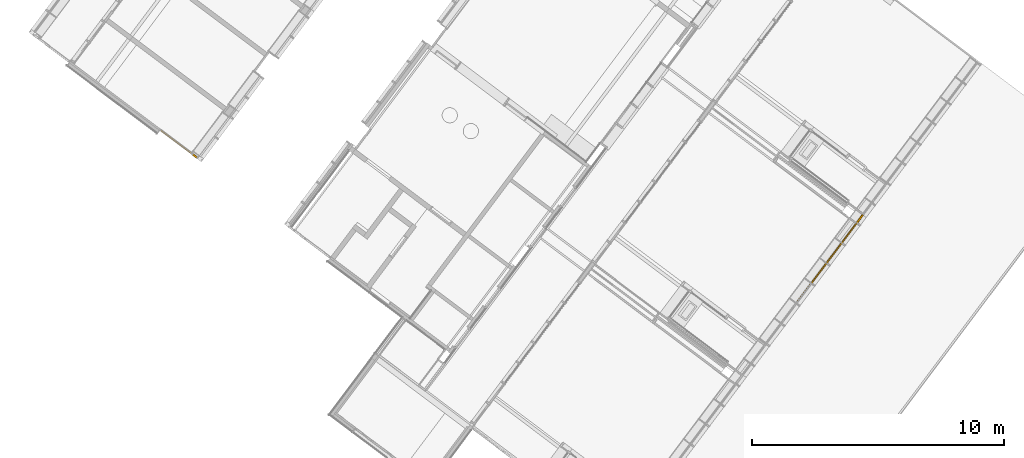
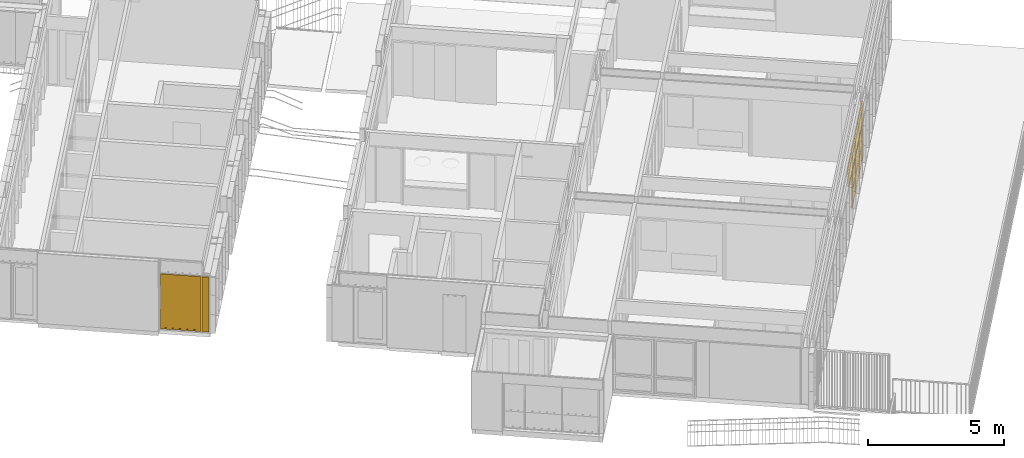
# One storey, part 155 of 243: 11 windows, 2 doors, 2 elements without a shape of their own.
"""IFC2X3 building model written with IfcOpenShell, lengths in metres."""

from ifc_helpers import new_model, entity, si_unit, converted_unit, derived_unit, direction, frame, origin, origin_2d_with_axis, place, context, subcontext, project, spatial, rectangle, extrude, faceted_brep, source, transform, mapped, material, material_list, type_object, type_shapes, element, aggregate, save


model = new_model("IFC2X3")

# Units and contexts
model_context = context("Model", 3, precision=1e-05, world=origin(), true_north=direction((6.123031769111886e-17, 1.0)))
body_context = subcontext(model_context, "Body", "Model", "MODEL_VIEW")
ifc_project = project(units=[si_unit("LENGTHUNIT", "METRE"), si_unit("AREAUNIT", "SQUARE_METRE"), si_unit("VOLUMEUNIT", "CUBIC_METRE"), converted_unit("PLANEANGLEUNIT", "DEGREE", entity("IfcRatioMeasure", 0.017453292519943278), si_unit("PLANEANGLEUNIT", "RADIAN"), dimensions=[0, 0, 0, 0, 0, 0, 0]), si_unit("MASSUNIT", "GRAM", prefix="KILO"), derived_unit("MASSDENSITYUNIT", [(si_unit("MASSUNIT", "GRAM", prefix="KILO"), 1), (si_unit("LENGTHUNIT", "METRE"), -3)]), derived_unit("IONCONCENTRATIONUNIT", [(si_unit("MASSUNIT", "GRAM", prefix="KILO"), 1), (si_unit("LENGTHUNIT", "METRE"), -3)]), derived_unit("MOMENTOFINERTIAUNIT", [(si_unit("LENGTHUNIT", "METRE"), 4)]), si_unit("TIMEUNIT", "SECOND"), si_unit("FREQUENCYUNIT", "HERTZ"), si_unit("THERMODYNAMICTEMPERATUREUNIT", "DEGREE_CELSIUS"), derived_unit("THERMALTRANSMITTANCEUNIT", [(si_unit("MASSUNIT", "GRAM", prefix="KILO"), 1), (si_unit("THERMODYNAMICTEMPERATUREUNIT", "KELVIN"), -1), (si_unit("TIMEUNIT", "SECOND"), -3)]), derived_unit("THERMALCONDUCTANCEUNIT", [(si_unit("MASSUNIT", "GRAM", prefix="KILO"), 1), (si_unit("THERMODYNAMICTEMPERATUREUNIT", "KELVIN"), -1), (si_unit("TIMEUNIT", "SECOND"), -3), (si_unit("LENGTHUNIT", "METRE"), 1)]), derived_unit("VOLUMETRICFLOWRATEUNIT", [(si_unit("LENGTHUNIT", "METRE"), 3), (si_unit("TIMEUNIT", "SECOND"), -1)]), derived_unit("MASSFLOWRATEUNIT", [(si_unit("MASSUNIT", "GRAM", prefix="KILO"), 1), (si_unit("TIMEUNIT", "SECOND"), -1)]), derived_unit("ROTATIONALFREQUENCYUNIT", [(si_unit("TIMEUNIT", "SECOND"), -1)]), si_unit("ELECTRICCURRENTUNIT", "AMPERE"), si_unit("ELECTRICVOLTAGEUNIT", "VOLT"), si_unit("POWERUNIT", "WATT"), si_unit("FORCEUNIT", "NEWTON", prefix="KILO"), si_unit("ILLUMINANCEUNIT", "LUX"), si_unit("LUMINOUSFLUXUNIT", "LUMEN"), si_unit("LUMINOUSINTENSITYUNIT", "CANDELA"), derived_unit("USERDEFINED", [(si_unit("MASSUNIT", "GRAM", prefix="KILO"), -1), (si_unit("LENGTHUNIT", "METRE"), -2), (si_unit("TIMEUNIT", "SECOND"), 3), (si_unit("LUMINOUSFLUXUNIT", "LUMEN"), 1)]), derived_unit("USERDEFINED", [(si_unit("MASSUNIT", "GRAM", prefix="KILO"), 1), (si_unit("TIMEUNIT", "SECOND"), -3), (si_unit("LENGTHUNIT", "METRE"), 3), (si_unit("ELECTRICCURRENTUNIT", "AMPERE"), -2)]), derived_unit("SOUNDPOWERUNIT", [(si_unit("MASSUNIT", "GRAM", prefix="KILO"), 1), (si_unit("TIMEUNIT", "SECOND"), -3), (si_unit("LENGTHUNIT", "METRE"), 2)]), derived_unit("SOUNDPRESSUREUNIT", [(si_unit("MASSUNIT", "GRAM", prefix="KILO"), 1), (si_unit("LENGTHUNIT", "METRE"), -1), (si_unit("TIMEUNIT", "SECOND"), -2)]), derived_unit("LINEARVELOCITYUNIT", [(si_unit("LENGTHUNIT", "METRE"), 1), (si_unit("TIMEUNIT", "SECOND"), -1)]), si_unit("PRESSUREUNIT", "PASCAL"), derived_unit("USERDEFINED", [(si_unit("MASSUNIT", "GRAM", prefix="KILO"), 1), (si_unit("LENGTHUNIT", "METRE"), -2), (si_unit("TIMEUNIT", "SECOND"), -2)]), derived_unit("LINEARFORCEUNIT", [(si_unit("MASSUNIT", "GRAM", prefix="KILO"), 1), (si_unit("TIMEUNIT", "SECOND"), -2)]), derived_unit("PLANARFORCEUNIT", [(si_unit("MASSUNIT", "GRAM", prefix="KILO"), 1), (si_unit("LENGTHUNIT", "METRE"), -1), (si_unit("TIMEUNIT", "SECOND"), -2)]), derived_unit("SPECIFICHEATCAPACITYUNIT", [(si_unit("THERMODYNAMICTEMPERATUREUNIT", "KELVIN"), -1), (si_unit("LENGTHUNIT", "METRE"), 2), (si_unit("TIMEUNIT", "SECOND"), -2)]), derived_unit("HEATINGVALUEUNIT", [(si_unit("LENGTHUNIT", "METRE"), 2), (si_unit("TIMEUNIT", "SECOND"), -2)]), derived_unit("VAPORPERMEABILITYUNIT", [(si_unit("LENGTHUNIT", "METRE"), -1), (si_unit("TIMEUNIT", "SECOND"), 1)]), derived_unit("DYNAMICVISCOSITYUNIT", [(si_unit("MASSUNIT", "GRAM", prefix="KILO"), 1), (si_unit("TIMEUNIT", "SECOND"), -1), (si_unit("LENGTHUNIT", "METRE"), -1)]), derived_unit("THERMALEXPANSIONCOEFFICIENTUNIT", [(si_unit("THERMODYNAMICTEMPERATUREUNIT", "KELVIN"), -1)]), derived_unit("MODULUSOFELASTICITYUNIT", [(si_unit("MASSUNIT", "GRAM", prefix="KILO"), 1), (si_unit("LENGTHUNIT", "METRE"), -1), (si_unit("TIMEUNIT", "SECOND"), -2)]), derived_unit("ISOTHERMALMOISTURECAPACITYUNIT", [(si_unit("LENGTHUNIT", "METRE"), 3), (si_unit("MASSUNIT", "GRAM", prefix="KILO"), -1)]), derived_unit("MOISTUREDIFFUSIVITYUNIT", [(si_unit("TIMEUNIT", "SECOND"), -1), (si_unit("LENGTHUNIT", "METRE"), 2)])], contexts=[model_context])

# Site, building, storey
site_placement = place(None, frame((0.0, 0.0, 235.0), z_axis=(0.0, 0.0, 1.0), x_axis=(-0.7996477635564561, 0.6004693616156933, 0.0)))
site = spatial("IfcSite", under=ifc_project, at=site_placement, Name="Default", CompositionType="ELEMENT")
building_placement = place(site_placement, origin())
building = spatial("IfcBuilding", under=site, at=building_placement, CompositionType="ELEMENT")
storey_placement = place(building_placement, origin())
storey = spatial("IfcBuildingStorey", under=building, at=storey_placement, Name="P0- Escola", CompositionType="ELEMENT", Elevation=0.0)

# Curtain wall, windows, door
curtain_wall_type_1 = type_object("IfcCurtainWallType", Name="Muro cortina:MC- EXT- MC2", PredefinedType="NOTDEFINED")
curtain_wall_1_placement = place(storey_placement, origin())
curtain_wall_1 = element("IfcCurtainWall", 1, at=curtain_wall_1_placement, inside=storey, type_object=curtain_wall_type_1, Name="Muro cortina:MC- EXT- MC2", ObjectType="Muro cortina:MC- EXT- MC2")
ifc_material_1 = material(Name="_Vidre")
ifc_material_2 = material(Name="_Alumini- T1- Perfil")
ifc_material_list_1 = material_list([ifc_material_1, ifc_material_2])
window_style_1 = type_object("IfcWindowStyle", Name="MC- Alu- Conjunt vidre fix- 62x60 cm:MC- Alu- Conjunt vidre fix- 62x60 cm", ConstructionType="NOTDEFINED", OperationType="NOTDEFINED", ParameterTakesPrecedence=False, Sizeable=False, material=ifc_material_list_1)
shared_shape_1 = source(origin(), body_context, "Body", "Brep", [
    faceted_brep([(0.4361932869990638, -0.007600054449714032, 0.048806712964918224), (0.4361932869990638, -0.03160022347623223, 0.048806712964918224), (-0.4361932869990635, -0.03160022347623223, 0.048806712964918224), (-0.4361932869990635, -0.007600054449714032, 0.048806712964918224), (0.4361932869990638, -0.007600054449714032, 0.7387000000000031), (-0.4361932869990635, -0.007600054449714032, 0.7387000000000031), (-0.4361932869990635, -0.03160022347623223, 0.7387000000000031), (0.4361932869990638, -0.03160022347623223, 0.7387000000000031)], [[[0, 1, 2, 3]], [[4, 0, 3, 5]], [[5, 3, 2, 6]], [[6, 2, 1, 7]], [[7, 1, 0, 4]], [[4, 5, 6, 7]]]),
    faceted_brep([(0.48499999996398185, -0.05999999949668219, 0.7877000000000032), (0.48499999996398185, -0.05999999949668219, 0.0), (0.48499999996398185, 0.0, 0.0), (0.48499999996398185, 0.0, 0.787700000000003), (-0.48499999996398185, 0.0, 0.7877000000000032), (-0.48499999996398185, 0.0, 0.0), (0.4221931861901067, 0.0, 0.7248931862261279), (-0.42219318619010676, 0.0, 0.724893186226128), (-0.4221931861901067, 0.0, 0.0628068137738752), (0.4221931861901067, 0.0, 0.06280681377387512), (-0.48499999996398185, -0.05999999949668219, 0.0), (-0.48499999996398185, -0.05999999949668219, 0.7877000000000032), (-0.42219603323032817, -0.05999999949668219, 0.7248960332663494), (0.42219603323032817, -0.05999999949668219, 0.7248960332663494), (0.42219603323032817, -0.05999999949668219, 0.0628039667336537), (-0.42219603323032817, -0.05999999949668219, 0.0628039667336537), (0.4221960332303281, -0.03160022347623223, 0.7248960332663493), (0.42219603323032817, -0.03160022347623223, 0.0628039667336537), (-0.42219603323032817, -0.03160022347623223, 0.06280396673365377), (-0.42219603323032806, -0.03160022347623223, 0.7248960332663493), (-0.43619328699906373, -0.03160022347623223, 0.738893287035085), (0.43619328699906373, -0.03160022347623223, 0.738893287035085), (0.43619328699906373, -0.03160022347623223, 0.048806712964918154), (-0.43619328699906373, -0.03160022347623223, 0.04880671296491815), (0.43619328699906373, -0.007600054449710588, 0.738893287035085), (0.43619328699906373, -0.007600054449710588, 0.04880671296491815), (-0.43619328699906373, -0.007600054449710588, 0.048806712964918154), (-0.43619328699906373, -0.007600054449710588, 0.738893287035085), (-0.42219318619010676, -0.007600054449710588, 0.724893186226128), (0.42219318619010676, -0.007600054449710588, 0.724893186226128), (0.42219318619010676, -0.007600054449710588, 0.06280681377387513), (-0.42219318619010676, -0.007600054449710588, 0.06280681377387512)], [[[0, 1, 2, 3]], [[4, 3, 2, 5], [6, 7, 8, 9]], [[1, 10, 5, 2]], [[0, 11, 10, 1], [12, 13, 14, 15]], [[16, 17, 14, 13]], [[17, 18, 15, 14]], [[16, 19, 18, 17], [20, 21, 22, 23]], [[24, 25, 22, 21]], [[25, 26, 23, 22]], [[24, 27, 26, 25], [28, 29, 30, 31]], [[6, 9, 30, 29]], [[9, 8, 31, 30]], [[10, 11, 4, 5]], [[18, 19, 12, 15]], [[26, 27, 20, 23]], [[8, 7, 28, 31]], [[11, 0, 3, 4]], [[19, 16, 13, 12]], [[27, 24, 21, 20]], [[7, 6, 29, 28]]], outer=[[True], [True, False], [True], [True, False], [True], [True], [False, True], [True], [True], [True, False], [True], [True], [True], [True], [True], [True], [True], [True], [True], [True]]),
])
type_shapes(window_style_1, [shared_shape_1])
window_1_placement = place(curtain_wall_1_placement, frame((5.885147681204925, -31.490191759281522, 0.03229999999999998), z_axis=(0.0, 0.0, 1.0), x_axis=(0.0, 1.0, 0.0)))
window_1 = element("IfcWindow", 2, at=window_1_placement, type_object=window_style_1, material=ifc_material_list_1, Name="MC- Alu- Conjunt vidre fix- 62x60 cm:MC- Alu- Conjunt vidre fix- 62x60 cm", ObjectType="MC- Alu- Conjunt vidre fix- 62x60 cm:MC- Alu- Conjunt vidre fix- 62x60 cm", OverallHeight=0.7877000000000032, OverallWidth=0.9699999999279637, context=body_context, shape_type="MappedRepresentation", body=[
    mapped(shared_shape_1, transform((0.0, 0.0, 0.0), scale=1.0)),
])
window_2_placement = place(curtain_wall_1_placement, frame((5.885147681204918, -32.490191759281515, 0.03229999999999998), z_axis=(0.0, 0.0, 1.0), x_axis=(0.0, 1.0, 0.0)))
window_2 = element("IfcWindow", 3, at=window_2_placement, type_object=window_style_1, material=ifc_material_list_1, Name="MC- Alu- Conjunt vidre fix- 62x60 cm:MC- Alu- Conjunt vidre fix- 62x60 cm", ObjectType="MC- Alu- Conjunt vidre fix- 62x60 cm:MC- Alu- Conjunt vidre fix- 62x60 cm", OverallHeight=0.7877000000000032, OverallWidth=0.9699999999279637, context=body_context, shape_type="MappedRepresentation", body=[
    mapped(shared_shape_1, transform((0.0, 0.0, 0.0), scale=1.0)),
])
window_3_placement = place(curtain_wall_1_placement, frame((5.885147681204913, -33.49019175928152, 0.03229999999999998), z_axis=(0.0, 0.0, 1.0), x_axis=(0.0, 1.0, 0.0)))
window_3 = element("IfcWindow", 4, at=window_3_placement, type_object=window_style_1, material=ifc_material_list_1, Name="MC- Alu- Conjunt vidre fix- 62x60 cm:MC- Alu- Conjunt vidre fix- 62x60 cm", ObjectType="MC- Alu- Conjunt vidre fix- 62x60 cm:MC- Alu- Conjunt vidre fix- 62x60 cm", OverallHeight=0.7877000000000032, OverallWidth=0.9699999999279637, context=body_context, shape_type="MappedRepresentation", body=[
    mapped(shared_shape_1, transform((0.0, 0.0, 0.0), scale=1.0)),
])
ifc_material_3 = material(Name="_Aillament")
ifc_material_list_2 = material_list([ifc_material_2, ifc_material_3])
door_style_1 = type_object("IfcDoorStyle", Name="MC- Alu- panell especific xapa:MC- Alu- panell especific xapa", ConstructionType="NOTDEFINED", OperationType="NOTDEFINED", ParameterTakesPrecedence=False, Sizeable=False, material=ifc_material_list_2)
shared_shape_2 = source(origin(), body_context, "Body", "SweptSolid", [
    extrude(rectangle(XDim=0.005999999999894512, YDim=0.3828504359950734, at=origin_2d_with_axis()), frame((0.0, -0.057000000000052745, 0.0), z_axis=(0.0, 0.0, 1.0), x_axis=(0.0, -1.0, 0.0)), (0.0, 0.0, 1.0), 2.4514499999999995),
    extrude(rectangle(XDim=0.3828504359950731, YDim=0.048000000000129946, at=origin_2d_with_axis()), frame((0.0, -0.030000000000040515, 0.0)), (0.0, 0.0, 1.0), 2.4514499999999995),
    extrude(rectangle(XDim=0.005999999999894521, YDim=0.3828504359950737, at=origin_2d_with_axis()), frame((0.0, -0.003000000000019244, 0.0), z_axis=(0.0, 0.0, 1.0), x_axis=(0.0, -1.0, 0.0)), (0.0, 0.0, 1.0), 2.4514499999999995),
])
type_shapes(door_style_1, [shared_shape_2])
door_1_placement = place(curtain_wall_1_placement, frame((5.885147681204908, -34.1966169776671, 0.03230000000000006), z_axis=(0.0, 0.0, 1.0), x_axis=(0.0, 1.0, 0.0)))
door_1 = element("IfcDoor", 5, at=door_1_placement, type_object=door_style_1, material=ifc_material_list_2, Name="MC- Alu- panell especific xapa:MC- Alu- panell especific xapa", ObjectType="MC- Alu- panell especific xapa:MC- Alu- panell especific xapa", OverallHeight=2.4514499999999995, OverallWidth=0.3828504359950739, context=body_context, shape_type="MappedRepresentation", body=[
    mapped(shared_shape_2, transform((0.0, 0.0, 0.0), scale=1.0)),
])
window_style_2 = type_object("IfcWindowStyle", Name="MC- Alu- Conjunt vidre fix- 62x60 cm:MC- Alu- Conjunt vidre fix- 62x60 cm", ConstructionType="NOTDEFINED", OperationType="NOTDEFINED", ParameterTakesPrecedence=False, Sizeable=False, material=ifc_material_list_1)
shared_shape_3 = source(origin(), body_context, "Body", "Brep", [
    faceted_brep([(0.4361932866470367, -0.007600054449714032, 0.048806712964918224), (0.4361932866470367, -0.03160022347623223, 0.048806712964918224), (-0.43619328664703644, -0.03160022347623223, 0.048806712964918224), (-0.43619328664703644, -0.007600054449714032, 0.048806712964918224), (0.4361932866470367, -0.007600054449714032, 0.8260000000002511), (-0.43619328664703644, -0.007600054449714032, 0.8260000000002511), (-0.43619328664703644, -0.03160022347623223, 0.8260000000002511), (0.4361932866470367, -0.03160022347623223, 0.8260000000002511)], [[[0, 1, 2, 3]], [[4, 0, 3, 5]], [[5, 3, 2, 6]], [[6, 2, 1, 7]], [[7, 1, 0, 4]], [[4, 5, 6, 7]]]),
    faceted_brep([(0.4849999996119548, -0.05999999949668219, 0.875000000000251), (0.4849999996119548, -0.05999999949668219, 0.0), (0.4849999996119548, 0.0, 0.0), (0.4849999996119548, 0.0, 0.8750000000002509), (-0.4849999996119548, 0.0, 0.875000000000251), (-0.4849999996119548, 0.0, 0.0), (0.4221931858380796, 0.0, 0.8121931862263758), (-0.4221931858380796, 0.0, 0.8121931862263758), (-0.4221931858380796, 0.0, 0.0628068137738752), (0.4221931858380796, 0.0, 0.06280681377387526), (-0.4849999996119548, -0.05999999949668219, 0.0), (-0.4849999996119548, -0.05999999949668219, 0.875000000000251), (-0.4221960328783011, -0.05999999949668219, 0.8121960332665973), (0.4221960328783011, -0.05999999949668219, 0.8121960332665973), (0.4221960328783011, -0.05999999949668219, 0.0628039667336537), (-0.4221960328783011, -0.05999999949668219, 0.0628039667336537), (0.422196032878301, -0.03160022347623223, 0.8121960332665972), (0.4221960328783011, -0.03160022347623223, 0.0628039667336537), (-0.4221960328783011, -0.03160022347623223, 0.06280396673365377), (-0.42219603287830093, -0.03160022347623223, 0.8121960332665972), (-0.4361932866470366, -0.03160022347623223, 0.8261932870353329), (0.4361932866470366, -0.03160022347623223, 0.8261932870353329), (0.4361932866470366, -0.03160022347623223, 0.048806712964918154), (-0.4361932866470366, -0.03160022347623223, 0.04880671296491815), (0.4361932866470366, -0.007600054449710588, 0.8261932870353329), (0.4361932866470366, -0.007600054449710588, 0.04880671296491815), (-0.4361932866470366, -0.007600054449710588, 0.048806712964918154), (-0.4361932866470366, -0.007600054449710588, 0.8261932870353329), (-0.42219318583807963, -0.007600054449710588, 0.8121931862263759), (0.42219318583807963, -0.007600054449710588, 0.8121931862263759), (0.42219318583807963, -0.007600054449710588, 0.06280681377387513), (-0.42219318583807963, -0.007600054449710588, 0.06280681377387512)], [[[0, 1, 2, 3]], [[4, 3, 2, 5], [6, 7, 8, 9]], [[1, 10, 5, 2]], [[0, 11, 10, 1], [12, 13, 14, 15]], [[16, 17, 14, 13]], [[17, 18, 15, 14]], [[16, 19, 18, 17], [20, 21, 22, 23]], [[24, 25, 22, 21]], [[25, 26, 23, 22]], [[24, 27, 26, 25], [28, 29, 30, 31]], [[6, 9, 30, 29]], [[9, 8, 31, 30]], [[10, 11, 4, 5]], [[18, 19, 12, 15]], [[26, 27, 20, 23]], [[8, 7, 28, 31]], [[11, 0, 3, 4]], [[19, 16, 13, 12]], [[27, 24, 21, 20]], [[7, 6, 29, 28]]], outer=[[True], [True, False], [True], [True, False], [True], [True], [False, True], [True], [True], [True, False], [True], [True], [True], [True], [True], [True], [True], [True], [True], [True]]),
])
type_shapes(window_style_2, [shared_shape_3])
window_4_placement = place(curtain_wall_1_placement, frame((5.885147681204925, -31.490191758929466, 0.8199999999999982), z_axis=(0.0, 0.0, 1.0), x_axis=(0.0, 1.0, 0.0)))
window_4 = element("IfcWindow", 6, at=window_4_placement, type_object=window_style_2, material=ifc_material_list_1, Name="MC- Alu- Conjunt vidre fix- 62x60 cm:MC- Alu- Conjunt vidre fix- 62x60 cm", ObjectType="MC- Alu- Conjunt vidre fix- 62x60 cm:MC- Alu- Conjunt vidre fix- 62x60 cm", OverallHeight=0.875000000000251, OverallWidth=0.9699999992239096, context=body_context, shape_type="MappedRepresentation", body=[
    mapped(shared_shape_3, transform((0.0, 0.0, 0.0), scale=1.0)),
])
window_5_placement = place(curtain_wall_1_placement, frame((5.885147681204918, -32.49019175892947, 0.8199999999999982), z_axis=(0.0, 0.0, 1.0), x_axis=(0.0, 1.0, 0.0)))
window_5 = element("IfcWindow", 7, at=window_5_placement, type_object=window_style_2, material=ifc_material_list_1, Name="MC- Alu- Conjunt vidre fix- 62x60 cm:MC- Alu- Conjunt vidre fix- 62x60 cm", ObjectType="MC- Alu- Conjunt vidre fix- 62x60 cm:MC- Alu- Conjunt vidre fix- 62x60 cm", OverallHeight=0.875000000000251, OverallWidth=0.9699999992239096, context=body_context, shape_type="MappedRepresentation", body=[
    mapped(shared_shape_3, transform((0.0, 0.0, 0.0), scale=1.0)),
])
window_6_placement = place(curtain_wall_1_placement, frame((5.885147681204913, -33.49019175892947, 0.8199999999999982), z_axis=(0.0, 0.0, 1.0), x_axis=(0.0, 1.0, 0.0)))
window_6 = element("IfcWindow", 8, at=window_6_placement, type_object=window_style_2, material=ifc_material_list_1, Name="MC- Alu- Conjunt vidre fix- 62x60 cm:MC- Alu- Conjunt vidre fix- 62x60 cm", ObjectType="MC- Alu- Conjunt vidre fix- 62x60 cm:MC- Alu- Conjunt vidre fix- 62x60 cm", OverallHeight=0.875000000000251, OverallWidth=0.9699999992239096, context=body_context, shape_type="MappedRepresentation", body=[
    mapped(shared_shape_3, transform((0.0, 0.0, 0.0), scale=1.0)),
])
window_style_3 = type_object("IfcWindowStyle", Name="MC- Alu- Conjunt finestra basculant- 68x68 cm:MC- Alu- Conjunt finestra basculant- 68x68 cm", ConstructionType="NOTDEFINED", OperationType="NOTDEFINED", ParameterTakesPrecedence=False, Sizeable=False, material=ifc_material_list_1)
shared_shape_4 = source(origin(), body_context, "Body", "Brep", [
    faceted_brep([(0.43291170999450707, -0.03559830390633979, 0.051999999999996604), (-0.4329117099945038, -0.03559830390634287, 0.051999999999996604), (-0.4329117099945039, -0.011598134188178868, 0.051999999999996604), (0.4329117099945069, -0.011598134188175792, 0.051999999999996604), (0.43291170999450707, -0.035598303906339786, 0.7365527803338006), (0.4329117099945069, -0.011598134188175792, 0.7365527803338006), (-0.4329117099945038, -0.011598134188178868, 0.7365527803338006), (-0.4329117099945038, -0.03559830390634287, 0.7365527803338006)], [[[0, 1, 2, 3]], [[4, 0, 3, 5]], [[5, 3, 2, 6]], [[6, 2, 1, 7]], [[7, 1, 0, 4]], [[4, 5, 6, 7]]]),
    faceted_brep([(-0.41721088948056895, -0.009998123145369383, 0.7208519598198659), (-0.41721088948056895, -0.00999812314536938, 0.06789804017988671), (-0.41721088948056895, -0.007998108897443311, 0.06789804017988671), (-0.41721088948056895, -0.007998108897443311, 0.7208519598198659), (-0.4461089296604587, -0.007998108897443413, 0.7497499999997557), (0.4461089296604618, -0.007998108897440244, 0.7497499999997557), (0.4461089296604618, -0.007998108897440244, 0.03899999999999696), (-0.4461089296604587, -0.007998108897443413, 0.03899999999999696), (0.41721088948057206, -0.007998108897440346, 0.7208519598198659), (0.41721088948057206, -0.007998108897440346, 0.06789804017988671), (0.41721088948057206, -0.009998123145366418, 0.06789804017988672), (0.41721088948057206, -0.009998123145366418, 0.7208519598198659), (0.432911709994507, -0.00999812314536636, 0.7365527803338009), (-0.4329117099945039, -0.009998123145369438, 0.7365527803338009), (-0.4329117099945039, -0.009998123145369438, 0.05219721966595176), (0.432911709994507, -0.00999812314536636, 0.052197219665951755), (-0.43291170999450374, -0.04079986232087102, 0.7365527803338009), (-0.43291170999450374, -0.04079986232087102, 0.052197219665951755), (0.4329117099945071, -0.04079986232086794, 0.05219721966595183), (0.4329117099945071, -0.04079986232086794, 0.7365527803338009), (0.41721088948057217, -0.040799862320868, 0.7208519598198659), (-0.4172108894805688, -0.04079986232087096, 0.7208519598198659), (-0.4172108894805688, -0.04079986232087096, 0.06789804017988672), (0.41721088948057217, -0.040799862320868, 0.06789804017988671), (-0.4172108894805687, -0.06800005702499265, 0.7208519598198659), (-0.4172108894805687, -0.06800005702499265, 0.06789804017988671), (0.41721088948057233, -0.0680000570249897, 0.06789804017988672), (0.4172108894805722, -0.0680000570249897, 0.7208519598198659), (0.46361289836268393, -0.06800005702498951, 0.7672539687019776), (-0.46361289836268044, -0.06800005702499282, 0.7672539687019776), (-0.46361289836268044, -0.06800005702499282, 0.021496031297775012), (0.46361289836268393, -0.06800005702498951, 0.021496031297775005), (-0.46361289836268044, -0.0645000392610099, 0.7672539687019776), (-0.46361289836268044, -0.06450003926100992, 0.021496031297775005), (0.46361289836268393, -0.06450003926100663, 0.02149603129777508), (0.46361289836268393, -0.06450003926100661, 0.7672539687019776), (0.446108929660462, -0.06450003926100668, 0.7497499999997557), (-0.44610892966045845, -0.06450003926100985, 0.7497499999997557), (-0.44610892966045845, -0.06450003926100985, 0.03899999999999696), (0.446108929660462, -0.06450003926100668, 0.038999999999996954)], [[[0, 1, 2, 3]], [[4, 5, 6, 7], [8, 3, 2, 9]], [[1, 10, 9, 2]], [[0, 11, 10, 1], [12, 13, 14, 15]], [[16, 17, 14, 13]], [[17, 18, 15, 14]], [[16, 19, 18, 17], [20, 21, 22, 23]], [[24, 25, 22, 21]], [[25, 26, 23, 22]], [[24, 27, 26, 25], [28, 29, 30, 31]], [[32, 33, 30, 29]], [[33, 34, 31, 30]], [[32, 35, 34, 33], [36, 37, 38, 39]], [[4, 7, 38, 37]], [[7, 6, 39, 38]], [[10, 11, 8, 9]], [[18, 19, 12, 15]], [[26, 27, 20, 23]], [[34, 35, 28, 31]], [[6, 5, 36, 39]], [[11, 0, 3, 8]], [[19, 16, 13, 12]], [[27, 24, 21, 20]], [[35, 32, 29, 28]], [[5, 4, 37, 36]]], outer=[[True], [True, False], [True], [False, True], [True], [True], [True, False], [True], [True], [False, True], [True], [True], [True, False], [True], [True], [True], [True], [True], [True], [True], [True], [True], [True], [True], [True]]),
    faceted_brep([(0.4221931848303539, 0.0, 0.7259431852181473), (0.4221931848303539, 0.0, 0.06280681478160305), (0.4221931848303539, -0.0040000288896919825, 0.06280681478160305), (0.4221931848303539, -0.0040000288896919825, 0.7259431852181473), (-0.4221931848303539, -0.0040000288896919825, 0.7259431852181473), (-0.4221931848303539, -0.0040000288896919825, 0.06280681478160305), (0.45759980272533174, -0.0040000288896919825, 0.7613498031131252), (-0.45759980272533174, -0.0040000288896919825, 0.7613498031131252), (-0.45759980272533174, -0.0040000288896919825, 0.027400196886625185), (0.45759980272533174, -0.0040000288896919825, 0.02740019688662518), (-0.4221931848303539, 0.0, 0.06280681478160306), (-0.4221931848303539, 0.0, 0.7259431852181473), (-0.4849999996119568, 0.0, 0.7887499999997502), (0.4849999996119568, 0.0, 0.7887499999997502), (0.4849999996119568, 0.0, 0.0), (-0.4849999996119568, 0.0, 0.0), (0.4849999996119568, -0.05999999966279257, 0.7887499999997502), (0.4849999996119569, -0.05999999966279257, 0.0), (-0.4849999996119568, -0.05999999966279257, 0.0), (-0.4849999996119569, -0.05999999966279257, 0.7887499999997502), (-0.45759980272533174, -0.05999999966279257, 0.7613498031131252), (0.45759980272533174, -0.05999999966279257, 0.7613498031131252), (0.45759980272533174, -0.05999999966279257, 0.027400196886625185), (-0.45759980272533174, -0.05999999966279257, 0.02740019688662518)], [[[0, 1, 2, 3]], [[4, 3, 2, 5], [6, 7, 8, 9]], [[1, 10, 5, 2]], [[0, 11, 10, 1], [12, 13, 14, 15]], [[16, 17, 14, 13]], [[17, 18, 15, 14]], [[16, 19, 18, 17], [20, 21, 22, 23]], [[6, 9, 22, 21]], [[9, 8, 23, 22]], [[10, 11, 4, 5]], [[18, 19, 12, 15]], [[8, 7, 20, 23]], [[11, 0, 3, 4]], [[19, 16, 13, 12]], [[7, 6, 21, 20]]], outer=[[True], [False, True], [True], [False, True], [True], [True], [True, False], [True], [True], [True], [True], [True], [True], [True], [True]]),
])
type_shapes(window_style_3, [shared_shape_4])
window_7_placement = place(curtain_wall_1_placement, frame((5.885147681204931, -30.490191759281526, 1.695000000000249), z_axis=(0.0, 0.0, 1.0), x_axis=(0.0, 1.0, 0.0)))
window_7 = element("IfcWindow", 9, at=window_7_placement, type_object=window_style_3, material=ifc_material_list_1, Name="MC- Alu- Conjunt finestra basculant- 68x68 cm:MC- Alu- Conjunt finestra basculant- 68x68 cm", ObjectType="MC- Alu- Conjunt finestra basculant- 68x68 cm:MC- Alu- Conjunt finestra basculant- 68x68 cm", OverallHeight=0.78874999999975, OverallWidth=0.9699999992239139, context=body_context, shape_type="MappedRepresentation", body=[
    mapped(shared_shape_4, transform((0.0, 0.0, 0.0), scale=1.0)),
])
window_8_placement = place(curtain_wall_1_placement, frame((5.885147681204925, -31.490191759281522, 1.695000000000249), z_axis=(0.0, 0.0, 1.0), x_axis=(0.0, 1.0, 0.0)))
window_8 = element("IfcWindow", 10, at=window_8_placement, type_object=window_style_3, material=ifc_material_list_1, Name="MC- Alu- Conjunt finestra basculant- 68x68 cm:MC- Alu- Conjunt finestra basculant- 68x68 cm", ObjectType="MC- Alu- Conjunt finestra basculant- 68x68 cm:MC- Alu- Conjunt finestra basculant- 68x68 cm", OverallHeight=0.78874999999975, OverallWidth=0.9699999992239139, context=body_context, shape_type="MappedRepresentation", body=[
    mapped(shared_shape_4, transform((0.0, 0.0, 0.0), scale=1.0)),
])
window_9_placement = place(curtain_wall_1_placement, frame((5.885147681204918, -32.49019175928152, 1.695000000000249), z_axis=(0.0, 0.0, 1.0), x_axis=(0.0, 1.0, 0.0)))
window_9 = element("IfcWindow", 11, at=window_9_placement, type_object=window_style_3, material=ifc_material_list_1, Name="MC- Alu- Conjunt finestra basculant- 68x68 cm:MC- Alu- Conjunt finestra basculant- 68x68 cm", ObjectType="MC- Alu- Conjunt finestra basculant- 68x68 cm:MC- Alu- Conjunt finestra basculant- 68x68 cm", OverallHeight=0.78874999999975, OverallWidth=0.9699999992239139, context=body_context, shape_type="MappedRepresentation", body=[
    mapped(shared_shape_4, transform((0.0, 0.0, 0.0), scale=1.0)),
])
window_10_placement = place(curtain_wall_1_placement, frame((5.885147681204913, -33.49019175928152, 1.6950000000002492), z_axis=(0.0, 0.0, 1.0), x_axis=(0.0, 1.0, 0.0)))
window_10 = element("IfcWindow", 12, at=window_10_placement, type_object=window_style_3, material=ifc_material_list_1, Name="MC- Alu- Conjunt finestra basculant- 68x68 cm:MC- Alu- Conjunt finestra basculant- 68x68 cm", ObjectType="MC- Alu- Conjunt finestra basculant- 68x68 cm:MC- Alu- Conjunt finestra basculant- 68x68 cm", OverallHeight=0.78874999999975, OverallWidth=0.9699999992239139, context=body_context, shape_type="MappedRepresentation", body=[
    mapped(shared_shape_4, transform((0.0, 0.0, 0.0), scale=1.0)),
])
aggregate(curtain_wall_1, [window_1, window_2, window_3, door_1, window_4, window_5, window_6, window_7, window_8, window_9, window_10])

# Curtain wall, door, window
curtain_wall_type_2 = type_object("IfcCurtainWallType", Name="Muro cortina:MC- EXT- AL1- Fa porxo", PredefinedType="NOTDEFINED")
curtain_wall_2_placement = place(storey_placement, origin())
curtain_wall_2 = element("IfcCurtainWall", 13, at=curtain_wall_2_placement, inside=storey, type_object=curtain_wall_type_2, Name="Muro cortina:MC- EXT- AL1- Fa porxo", ObjectType="Muro cortina:MC- EXT- AL1- Fa porxo")
door_style_2 = type_object("IfcDoorStyle", Name="MC- Alu- panell especific xapa:MC- Alu- panell especific xapa", ConstructionType="NOTDEFINED", OperationType="NOTDEFINED", ParameterTakesPrecedence=False, Sizeable=False, material=ifc_material_list_2)
shared_shape_5 = source(origin(), body_context, "Body", "SweptSolid", [
    extrude(rectangle(XDim=0.005999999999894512, YDim=0.2529999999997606, at=origin_2d_with_axis()), frame((0.0, -0.057000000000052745, 0.0), z_axis=(0.0, 0.0, 1.0), x_axis=(0.0, -1.0, 0.0)), (0.0, 0.0, 1.0), 2.4712499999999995),
    extrude(rectangle(XDim=0.2529999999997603, YDim=0.048000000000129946, at=origin_2d_with_axis()), frame((0.0, -0.030000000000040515, 0.0)), (0.0, 0.0, 1.0), 2.4712499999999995),
    extrude(rectangle(XDim=0.005999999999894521, YDim=0.25299999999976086, at=origin_2d_with_axis()), frame((0.0, -0.003000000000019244, 0.0), z_axis=(0.0, 0.0, 1.0), x_axis=(0.0, -1.0, 0.0)), (0.0, 0.0, 1.0), 2.4712499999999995),
])
type_shapes(door_style_2, [shared_shape_5])
door_2_placement = place(curtain_wall_2_placement, frame((28.572647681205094, -20.288941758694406, 0.02099999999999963)))
door_2 = element("IfcDoor", 14, at=door_2_placement, type_object=door_style_2, material=ifc_material_list_2, Name="MC- Alu- panell especific xapa:MC- Alu- panell especific xapa", ObjectType="MC- Alu- panell especific xapa:MC- Alu- panell especific xapa", OverallHeight=2.4712499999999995, OverallWidth=0.252999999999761, context=body_context, shape_type="MappedRepresentation", body=[
    mapped(shared_shape_5, transform((0.0, 0.0, 0.0), scale=1.0)),
])
window_style_4 = type_object("IfcWindowStyle", Name="MC- Alu- Conjunt vidre fix- 62x60 cm:MC- Alu- Conjunt vidre fix- 62x60 cm", ConstructionType="NOTDEFINED", OperationType="NOTDEFINED", ParameterTakesPrecedence=False, Sizeable=False, material=ifc_material_list_1)
shared_shape_6 = source(origin(), body_context, "Body", "Brep", [
    faceted_brep([(-0.698191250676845, -0.007600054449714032, 0.048806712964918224), (0.6981912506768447, -0.007600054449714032, 0.048806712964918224), (0.6981912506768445, -0.03160022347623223, 0.048806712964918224), (-0.6981912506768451, -0.03160022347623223, 0.048806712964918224), (-0.6981912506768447, -0.007600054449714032, 2.4222499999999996), (0.6981912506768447, -0.007600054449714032, 2.4222499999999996), (0.6981912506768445, -0.03160022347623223, 2.4222499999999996), (-0.6981912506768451, -0.03160022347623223, 2.4222499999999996)], [[[0, 1, 2, 3]], [[4, 5, 1, 0]], [[5, 6, 2, 1]], [[6, 7, 3, 2]], [[7, 4, 0, 3]], [[4, 7, 6, 5]]]),
    faceted_brep([(-0.746997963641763, -0.05999999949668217, 2.4712499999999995), (-0.746997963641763, 0.0, 2.4712499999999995), (-0.746997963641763, 0.0, 0.0), (-0.746997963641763, -0.05999999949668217, 0.0), (-0.6841911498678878, 0.0, 2.4084431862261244), (-0.6841911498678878, 0.0, 0.06280681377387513), (0.6841911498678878, 0.0, 0.06280681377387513), (0.6841911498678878, 0.0, 2.4084431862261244), (0.746997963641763, 0.0, 2.4712499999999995), (0.746997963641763, 0.0, 0.0), (0.746997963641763, -0.05999999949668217, 0.0), (0.746997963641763, -0.05999999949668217, 2.4712499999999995), (0.684193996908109, -0.05999999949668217, 2.4084460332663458), (0.6841939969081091, -0.05999999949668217, 0.06280396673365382), (-0.684193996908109, -0.05999999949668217, 0.06280396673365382), (-0.6841939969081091, -0.05999999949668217, 2.4084460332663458), (-0.6841939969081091, -0.03160022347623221, 2.4084460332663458), (-0.6841939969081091, -0.03160022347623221, 0.06280396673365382), (0.6841939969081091, -0.03160022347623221, 0.06280396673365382), (0.6841939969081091, -0.03160022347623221, 2.4084460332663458), (0.6981912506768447, -0.03160022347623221, 2.4224432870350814), (0.6981912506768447, -0.03160022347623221, 0.048806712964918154), (-0.6981912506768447, -0.03160022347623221, 0.04880671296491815), (-0.6981912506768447, -0.03160022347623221, 2.4224432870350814), (-0.6981912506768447, -0.007600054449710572, 2.4224432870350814), (-0.6981912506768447, -0.007600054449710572, 0.04880671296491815), (0.6981912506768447, -0.007600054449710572, 0.048806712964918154), (0.6981912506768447, -0.007600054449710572, 2.4224432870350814), (0.6841911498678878, -0.007600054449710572, 2.4084431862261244), (0.6841911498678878, -0.007600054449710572, 0.06280681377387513), (-0.6841911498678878, -0.007600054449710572, 0.06280681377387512), (-0.6841911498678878, -0.007600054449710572, 2.4084431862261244)], [[[0, 1, 2, 3]], [[4, 5, 6, 7], [8, 9, 2, 1]], [[3, 2, 9, 10]], [[0, 3, 10, 11], [12, 13, 14, 15]], [[16, 15, 14, 17]], [[17, 14, 13, 18]], [[16, 17, 18, 19], [20, 21, 22, 23]], [[24, 23, 22, 25]], [[25, 22, 21, 26]], [[24, 25, 26, 27], [28, 29, 30, 31]], [[4, 31, 30, 5]], [[5, 30, 29, 6]], [[10, 9, 8, 11]], [[18, 13, 12, 19]], [[26, 21, 20, 27]], [[6, 29, 28, 7]], [[11, 8, 1, 0]], [[19, 12, 15, 16]], [[27, 20, 23, 24]], [[7, 28, 31, 4]]], outer=[[True], [False, True], [True], [True, False], [True], [True], [False, True], [True], [True], [True, False], [True], [True], [True], [True], [True], [True], [True], [True], [True], [True]]),
])
type_shapes(window_style_4, [shared_shape_6])
window_11_placement = place(curtain_wall_2_placement, frame((29.48714564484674, -20.288941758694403, 0.02099999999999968)))
window_11 = element("IfcWindow", 15, at=window_11_placement, type_object=window_style_4, material=ifc_material_list_1, Name="MC- Alu- Conjunt vidre fix- 62x60 cm:MC- Alu- Conjunt vidre fix- 62x60 cm", ObjectType="MC- Alu- Conjunt vidre fix- 62x60 cm:MC- Alu- Conjunt vidre fix- 62x60 cm", OverallHeight=2.4712499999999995, OverallWidth=1.493995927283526, context=body_context, shape_type="MappedRepresentation", body=[
    mapped(shared_shape_6, transform((0.0, 0.0, 0.0), scale=1.0)),
])
aggregate(curtain_wall_2, [door_2, window_11])

save(model, "model.ifc")
